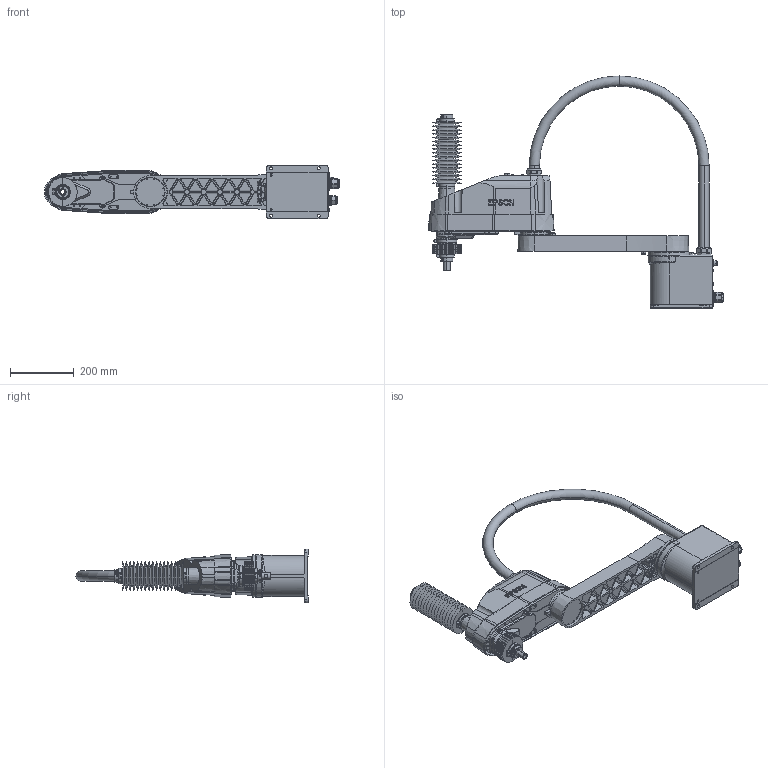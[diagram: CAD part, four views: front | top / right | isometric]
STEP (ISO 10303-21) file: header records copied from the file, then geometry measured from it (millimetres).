
FILE_DESCRIPTION (( 'STEP AP214' ), '1' );
FILE_NAME ('LA6-x702C.STEP', '2026-07-14T23:13:45', ( '' ), ( '' ), 'SwSTEP 2.0', 'SolidWorks 2020', '' );
FILE_SCHEMA (( 'AUTOMOTIVE_DESIGN' ));
Length unit declared in the file: millimetre
Products named in the file (6): LA6-A-C_Z_AXIS_1_2; LA6-x702C; LA6-A-C_BASE_1_2; LA6-A_J2_ARM_1_2; LA6-A702C_J1_ARM; LA6-A702C_CONDUIT
Assembly tree (5 placements, depth 2):
  LA6-x702C
    LA6-A-C_BASE_1_2
    LA6-A702C_J1_ARM
    LA6-A_J2_ARM_1_2
    LA6-A-C_Z_AXIS_1_2
    LA6-A702C_CONDUIT
Bounding box: 927.53 x 730 x 169 mm (x, y, z)
Volume: 13250155.6 mm3; surface area: 1381836.1 mm2
Topology: 4 solids, 5 shells, 2742 faces, 7002 edges, 4486 vertices
Faces by surface type: plane 1418, cone 655, cylinder 551, torus 88, sphere 22, bspline 8
Entity records: 108612 total; most frequent: CARTESIAN_POINT 33755, ORIENTED_EDGE 13912, DIRECTION 13105, EDGE_CURVE 6956, AXIS2_PLACEMENT_3D 4716, VERTEX_POINT 4486, LINE 3673, VECTOR 3673
